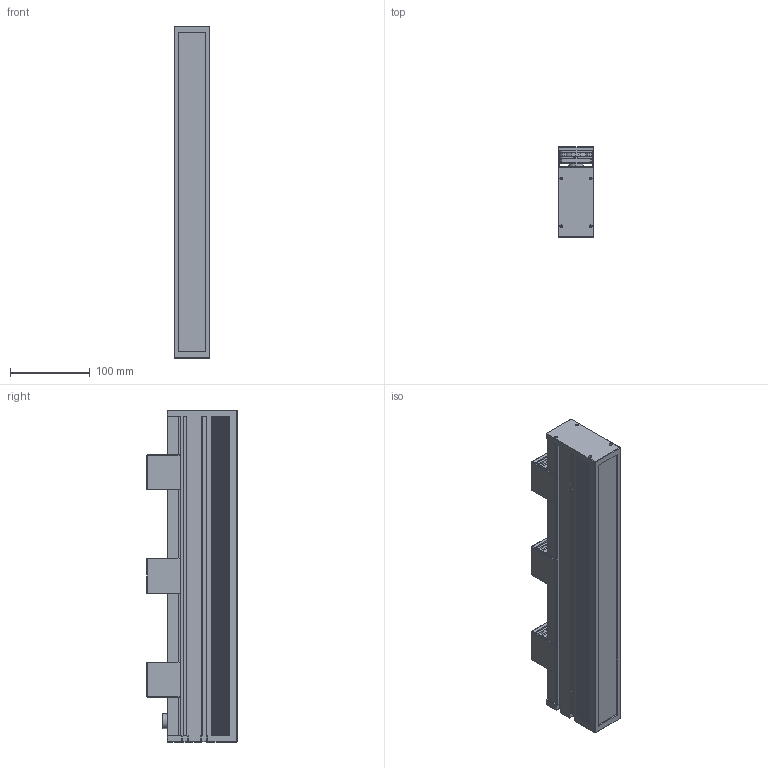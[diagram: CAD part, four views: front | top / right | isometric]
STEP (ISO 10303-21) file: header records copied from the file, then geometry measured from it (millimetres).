
FILE_DESCRIPTION((''),'2;1');
FILE_NAME('ASM0001_ASM','2021-08-31T',('hyj'),(''),'PRO/ENGINEER BY PARAMETRIC TECHNOLOGY CORPORATION, 2010100','PRO/ENGINEER BY PARAMETRIC TECHNOLOGY CORPORATION, 2010100','');
FILE_SCHEMA(('CONFIG_CONTROL_DESIGN'));
Length unit declared in the file: millimetre
Products named in the file (4): P-LSP-SF-SRP; FSZ; 4015; ASM0001_ASM
Assembly tree (7 placements, depth 2):
  ASM0001_ASM
    P-LSP-SF-SRP
    FSZ  x3
    4015  x3
Bounding box: 45 x 113 x 416 mm (x, y, z)
Volume: 1141505.6 mm3; surface area: 459011.8 mm2
Topology: 10 solids, 25 shells, 1180 faces, 3281 edges, 2136 vertices
Faces by surface type: plane 614, cylinder 470, cone 54, bspline 24, extrusion 12, torus 6
Entity records: 22346 total; most frequent: CARTESIAN_POINT 4331, ORIENTED_EDGE 3738, DIRECTION 3728, EDGE_CURVE 1881, VECTOR 1292, LINE 1288, VERTEX_POINT 1230, AXIS2_PLACEMENT_3D 1218
